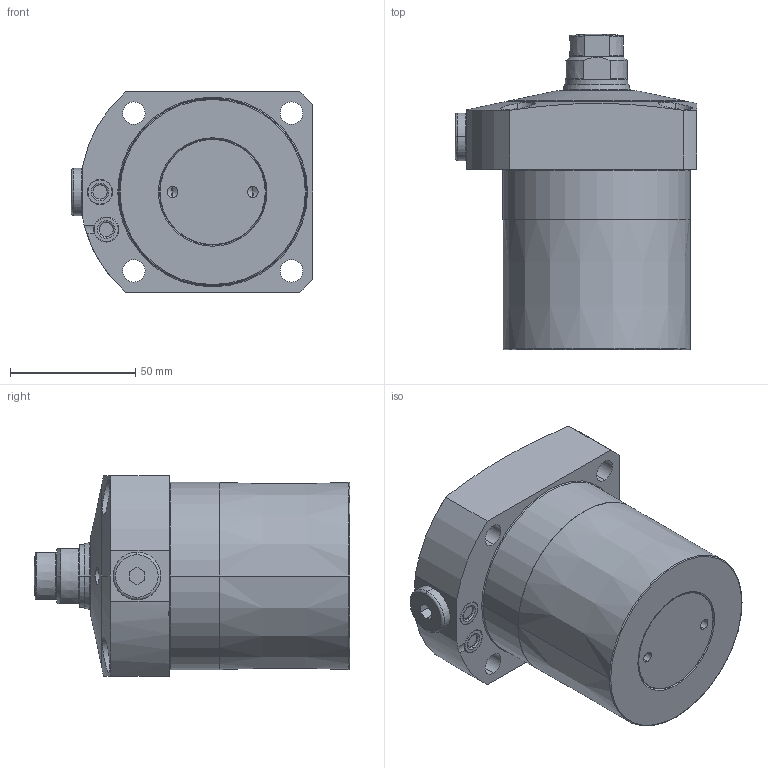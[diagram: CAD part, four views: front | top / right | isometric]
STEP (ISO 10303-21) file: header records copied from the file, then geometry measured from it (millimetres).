
FILE_DESCRIPTION(/* description */ (''),/* implementation_level */ '2;1');
FILE_NAME(/* name */ 'KFSC75.stp',/* time_stamp */ '2026-02-04T15:11:36+08:00',/* author */ (''),/* organization */ (''),/* preprocessor_version */ 'ST-DEVELOPER v16.7',/* originating_system */ 'SIEMENS PLM Software NX 12.0',/* authorisation */ '');
FILE_SCHEMA (('AUTOMOTIVE_DESIGN { 1 0 10303 214 3 1 1 1 }'));
Length unit declared in the file: millimetre
Products named in the file (8): XLC-M16_contactbolt; XLC-M16_o-ring; KFSC75-01; P7-2; KFSC75-02; JZG020-2; KFSC75-03; LC0753-Cx_step
Assembly tree (8 placements, depth 3):
  LC0753-Cx_step
    JZG020-2
    KFSC75-02
    KFSC75-03
      XLC-M16_o-ring
      XLC-M16_contactbolt
    P7-2  x2
    KFSC75-01
Bounding box: 96.5 x 126 x 80 mm (x, y, z)
Volume: 508727.1 mm3; surface area: 52380.4 mm2
Topology: 7 solids, 7 shells, 236 faces, 524 edges, 314 vertices
Faces by surface type: cylinder 72, torus 60, plane 52, cone 50, bspline 2
Entity records: 6828 total; most frequent: CARTESIAN_POINT 1482, DIRECTION 1182, ORIENTED_EDGE 980, AXIS2_PLACEMENT_3D 515, EDGE_CURVE 490, VERTEX_POINT 300, CIRCLE 284, EDGE_LOOP 258
